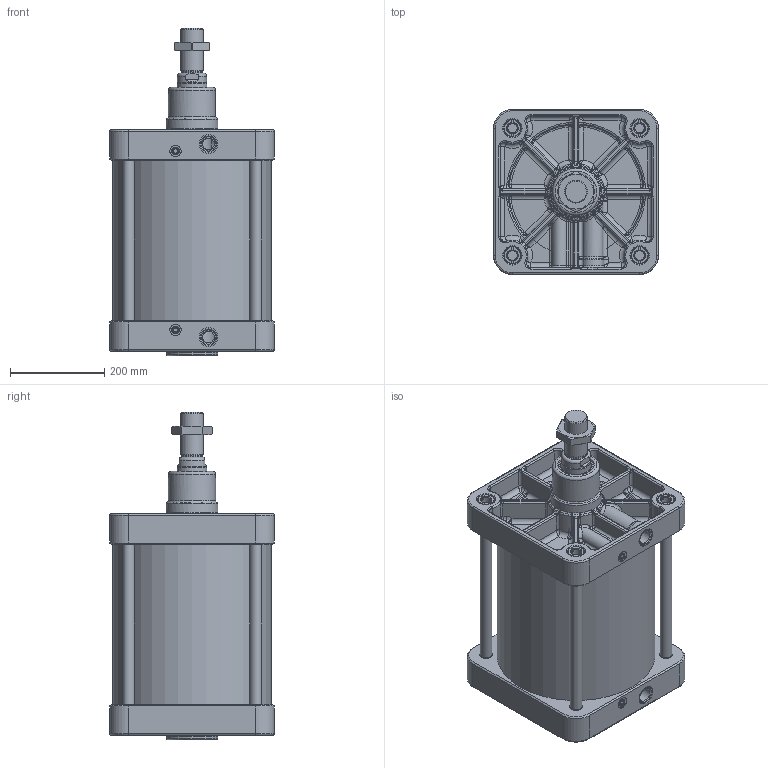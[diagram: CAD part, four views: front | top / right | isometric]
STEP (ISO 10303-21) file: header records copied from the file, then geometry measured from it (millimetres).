
FILE_DESCRIPTION(/* description */ (''),/* implementation_level */ '2;1');
FILE_NAME(/* name */ 'T:\Archivio Inventor\- 00 NUOVI STP PER SITO CON STELO CHE SI MUOVE\SERIE H - U\SERIE UDM\UDM320.---.GS.M\UDM320.250.GS.M.stp',/* time_stamp */ '2020-04-29T16:30:28+02:00',/* author */ ('carlo.corazza'),/* organization */ (''),/* preprocessor_version */ 'ST-DEVELOPER v16.5',/* originating_system */ 'Autodesk Inventor 2017',/* authorisation */ '');
FILE_SCHEMA (('AUTOMOTIVE_DESIGN { 1 0 10303 214 3 1 1 }'));
Length unit declared in the file: millimetre
Products named in the file (7): UDM320.250.GS.M; TP; STELO-250; TA; CORPO-250; TIRANTE-250; 29.2048.000.0
Assembly tree (9 placements, depth 2):
  UDM320.250.GS.M
    TP
    STELO-250
    TA
    TIRANTE-250  x4
    CORPO-250
    29.2048.000.0
Bounding box: 350 x 350 x 696 mm (x, y, z)
Volume: 14369045 mm3; surface area: 2110966 mm2
Topology: 9 solids, 16 shells, 1710 faces, 3937 edges, 2221 vertices
Faces by surface type: cylinder 439, bspline 432, plane 380, torus 252, cone 115, sphere 92
Full cylindrical faces by diameter (mm): 8 x2, 9 x1, 10 x1, 11 x2, 11.2 x2, 12 x2, 12.376 x1, 13.4 x4, 14 x2, 15.8 x4, 16 x6, 20.752 x8, 24 x10, 24.5 x8, 25 x6, 30.291 x2, 36 x9, 37 x8, 40 x2, 44.8 x1, 45.835 x1, 48 x1, 62 x1, 63 x1, 64 x1, 64.293 x1, 65.8 x1, 73 x1, 75 x3, 100 x1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
Entity records: 64917 total; most frequent: CARTESIAN_POINT 27888, DIRECTION 7314, ORIENTED_EDGE 7088, EDGE_CURVE 3544, AXIS2_PLACEMENT_3D 3113, VERTEX_POINT 2134, EDGE_LOOP 1966, FACE_OUTER_BOUND 1683
